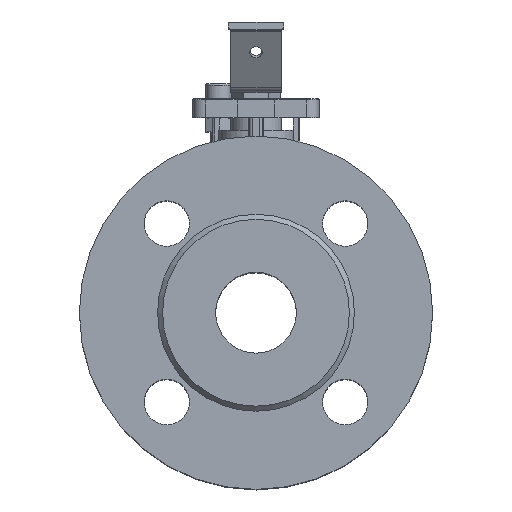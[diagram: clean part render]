
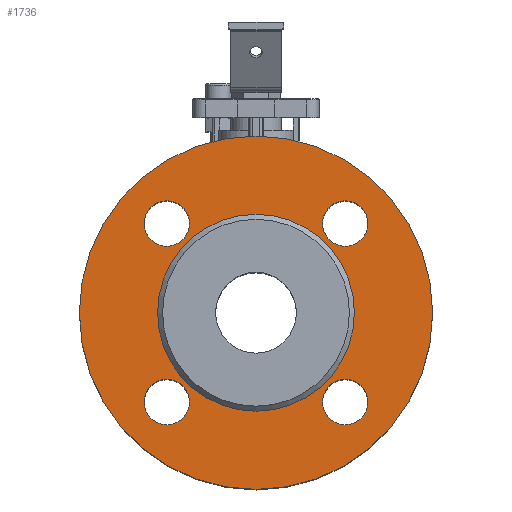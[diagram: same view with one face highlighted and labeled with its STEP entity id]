
A CAD part, top view. The second image highlights one B-rep face of the part: STEP entity #1736.
In plain terms, the highlighted planar face has unit normal (0, 0, 1).
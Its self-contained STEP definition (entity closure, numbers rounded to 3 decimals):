
#1736=ADVANCED_FACE('',(#6318,#6320,#6322,#6324,#6326,#6328),#6330,.T.);
#6318=FACE_BOUND('',#6319,.T.);
#6319=EDGE_LOOP('',(#12103));
#6320=FACE_BOUND('',#6321,.T.);
#6321=EDGE_LOOP('',(#12104));
#6322=FACE_BOUND('',#6323,.T.);
#6323=EDGE_LOOP('',(#12105));
#6324=FACE_BOUND('',#6325,.T.);
#6325=EDGE_LOOP('',(#12106));
#6326=FACE_BOUND('',#6327,.T.);
#6327=EDGE_LOOP('',(#12107));
#6328=FACE_BOUND('',#6329,.T.);
#6329=EDGE_LOOP('',(#12108));
#6330=PLANE('',#6331);
#6331=AXIS2_PLACEMENT_3D('',#6332,#6333,#6334);
#6332=CARTESIAN_POINT('',(0.,0.,51.943));
#6333=DIRECTION('',(0.,0.,1.));
#6334=DIRECTION('',(0.,1.,0.));
#12103=ORIENTED_EDGE('',*,*,#14467,.F.);
#12104=ORIENTED_EDGE('',*,*,#14468,.T.);
#12105=ORIENTED_EDGE('',*,*,#14469,.T.);
#12106=ORIENTED_EDGE('',*,*,#14470,.T.);
#12107=ORIENTED_EDGE('',*,*,#14730,.T.);
#12108=ORIENTED_EDGE('',*,*,#14494,.T.);
#14467=EDGE_CURVE('',#16288,#16288,#16289,.T.);
#14468=EDGE_CURVE('',#16290,#16290,#16291,.F.);
#14469=EDGE_CURVE('',#16292,#16292,#16293,.F.);
#14470=EDGE_CURVE('',#16294,#16294,#16295,.F.);
#14494=EDGE_CURVE('',#16331,#16331,#16332,.F.);
#14730=EDGE_CURVE('',#16696,#16696,#16697,.T.);
#16288=VERTEX_POINT('',#22094);
#16289=CIRCLE('',#22095,70.);
#16290=VERTEX_POINT('',#22099);
#16291=CIRCLE('',#22100,9.);
#16292=VERTEX_POINT('',#22104);
#16293=CIRCLE('',#22105,9.);
#16294=VERTEX_POINT('',#22109);
#16295=CIRCLE('',#22110,9.);
#16331=VERTEX_POINT('',#22426);
#16332=CIRCLE('',#22427,9.);
#16696=VERTEX_POINT('',#24372);
#16697=CIRCLE('',#24373,39.);
#22094=CARTESIAN_POINT('',(0.,70.,51.943));
#22095=AXIS2_PLACEMENT_3D('',#22096,#22097,#22098);
#22096=CARTESIAN_POINT('',(0.,0.,51.943));
#22097=DIRECTION('',(0.,0.,-1.));
#22098=DIRECTION('',(0.,1.,0.));
#22099=CARTESIAN_POINT('',(-35.355,44.355,51.943));
#22100=AXIS2_PLACEMENT_3D('',#22101,#22102,#22103);
#22101=CARTESIAN_POINT('',(-35.355,35.355,51.943));
#22102=DIRECTION('',(0.,0.,1.));
#22103=DIRECTION('',(0.,1.,0.));
#22104=CARTESIAN_POINT('',(-44.355,-35.355,51.943));
#22105=AXIS2_PLACEMENT_3D('',#22106,#22107,#22108);
#22106=CARTESIAN_POINT('',(-35.355,-35.355,51.943));
#22107=DIRECTION('',(0.,0.,1.));
#22108=DIRECTION('',(-1.,0.,0.));
#22109=CARTESIAN_POINT('',(35.355,-44.355,51.943));
#22110=AXIS2_PLACEMENT_3D('',#22111,#22112,#22113);
#22111=CARTESIAN_POINT('',(35.355,-35.355,51.943));
#22112=DIRECTION('',(0.,0.,1.));
#22113=DIRECTION('',(0.,-1.,0.));
#22426=CARTESIAN_POINT('',(44.355,35.355,51.943));
#22427=AXIS2_PLACEMENT_3D('',#22428,#22429,#22430);
#22428=CARTESIAN_POINT('',(35.355,35.355,51.943));
#22429=DIRECTION('',(0.,0.,1.));
#22430=DIRECTION('',(1.,0.,0.));
#24372=CARTESIAN_POINT('',(0.,39.,51.943));
#24373=AXIS2_PLACEMENT_3D('',#24374,#24375,#24376);
#24374=CARTESIAN_POINT('',(0.,0.,51.943));
#24375=DIRECTION('',(0.,0.,-1.));
#24376=DIRECTION('',(0.,1.,0.));
